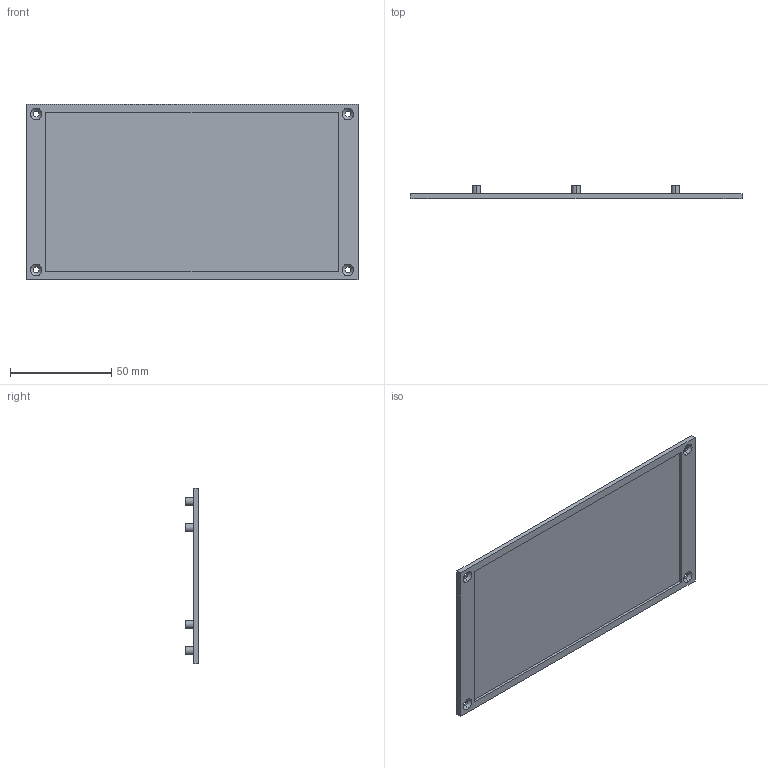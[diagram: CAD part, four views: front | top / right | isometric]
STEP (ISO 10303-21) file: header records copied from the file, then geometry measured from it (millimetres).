
FILE_DESCRIPTION (( 'STEP AP214' ), '1' );
FILE_NAME ('Tapa GP3.STEP', '2017-07-19T08:16:00', ( 'aaa' ), ( '' ), 'SwSTEP 2.0', 'SolidWorks 2013', '' );
FILE_SCHEMA (( 'AUTOMOTIVE_DESIGN' ));
Length unit declared in the file: millimetre
Products named in the file (1): Tapa GP3
Bounding box: 164 x 6.3 x 86.9 mm (x, y, z)
Volume: 18061.6 mm3; surface area: 30705.9 mm2
Topology: 1 solids, 1 shells, 63 faces, 136 edges, 88 vertices
Faces by surface type: cylinder 32, plane 23, cone 8
Entity records: 1788 total; most frequent: DIRECTION 336, CARTESIAN_POINT 288, ORIENTED_EDGE 272, EDGE_CURVE 136, AXIS2_PLACEMENT_3D 136, VERTEX_POINT 88, EDGE_LOOP 84, CIRCLE 72
